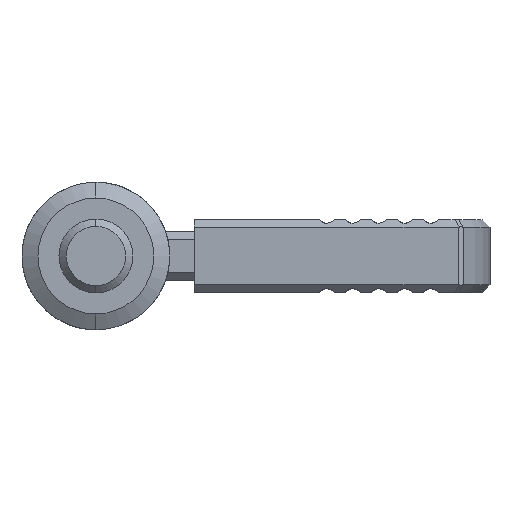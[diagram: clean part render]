
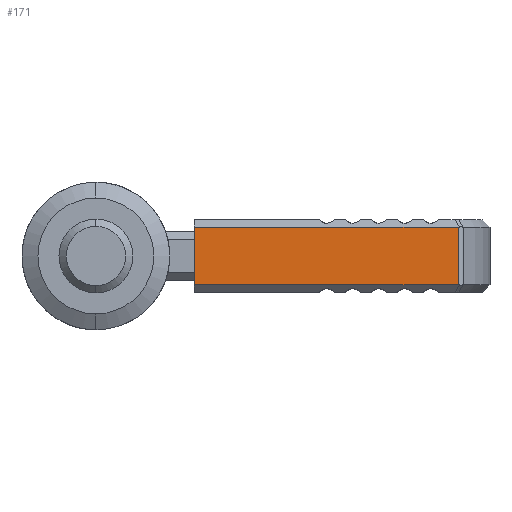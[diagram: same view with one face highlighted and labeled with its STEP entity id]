
A CAD part, front view. The second image highlights one B-rep face of the part: STEP entity #171.
In plain terms, the highlighted planar face has unit normal (0, -1, 0).
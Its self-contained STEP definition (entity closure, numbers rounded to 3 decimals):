
#149 = VERTEX_POINT ( 'NONE', #798 ) ;
#150 = ORIENTED_EDGE ( 'NONE', *, *, #151, .T. ) ;
#151 = EDGE_CURVE ( 'NONE', #149, #4770, #797, .T. ) ;
#158 = VERTEX_POINT ( 'NONE', #840 ) ;
#159 = EDGE_CURVE ( 'NONE', #4780, #158, #839, .T. ) ;
#160 = EDGE_CURVE ( 'NONE', #158, #149, #835, .T. ) ;
#161 = ORIENTED_EDGE ( 'NONE', *, *, #160, .T. ) ;
#165 = EDGE_LOOP ( 'NONE', ( #166, #161, #150, #580 ) ) ;
#166 = ORIENTED_EDGE ( 'NONE', *, *, #159, .T. ) ;
#171 = ADVANCED_FACE ( 'NONE', ( #825 ), #824, .F. ) ;
#580 = ORIENTED_EDGE ( 'NONE', *, *, #4781, .F. ) ;
#794 = DIRECTION ( 'NONE',  ( 0., 0., -1. ) ) ;
#795 = VECTOR ( 'NONE', #794, 1000. ) ;
#796 = CARTESIAN_POINT ( 'NONE',  ( -2.349, -7., 0. ) ) ;
#797 = LINE ( 'NONE', #796, #795 ) ;
#798 = CARTESIAN_POINT ( 'NONE',  ( -2.349, -7., 21.414 ) ) ;
#819 = DIRECTION ( 'NONE',  ( 0., 0., 1. ) ) ;
#820 = DIRECTION ( 'NONE',  ( 0., 1., 0. ) ) ;
#821 = CARTESIAN_POINT ( 'NONE',  ( 2.95, -7., 0. ) ) ;
#823 = AXIS2_PLACEMENT_3D ( 'NONE', #821, #820, #819 ) ;
#824 = PLANE ( 'NONE',  #823 ) ;
#825 = FACE_OUTER_BOUND ( 'NONE', #165, .T. ) ;
#832 = DIRECTION ( 'NONE',  ( -1., 0., 0. ) ) ;
#833 = VECTOR ( 'NONE', #832, 1000. ) ;
#834 = CARTESIAN_POINT ( 'NONE',  ( 2.95, -7., 21.414 ) ) ;
#835 = LINE ( 'NONE', #834, #833 ) ;
#836 = DIRECTION ( 'NONE',  ( 0., 0., 1. ) ) ;
#837 = VECTOR ( 'NONE', #836, 1000. ) ;
#838 = CARTESIAN_POINT ( 'NONE',  ( 2.349, -7., 0. ) ) ;
#839 = LINE ( 'NONE', #838, #837 ) ;
#840 = CARTESIAN_POINT ( 'NONE',  ( 2.349, -7., 21.414 ) ) ;
#1880 = CARTESIAN_POINT ( 'NONE',  ( -2.349, -7., 0. ) ) ;
#1922 = DIRECTION ( 'NONE',  ( -1., 0., 0. ) ) ;
#1923 = VECTOR ( 'NONE', #1922, 1000. ) ;
#1924 = CARTESIAN_POINT ( 'NONE',  ( 2.95, -7., 0. ) ) ;
#1925 = LINE ( 'NONE', #1924, #1923 ) ;
#1926 = CARTESIAN_POINT ( 'NONE',  ( 2.349, -7., 0. ) ) ;
#4770 = VERTEX_POINT ( 'NONE', #1880 ) ;
#4780 = VERTEX_POINT ( 'NONE', #1926 ) ;
#4781 = EDGE_CURVE ( 'NONE', #4780, #4770, #1925, .T. ) ;
